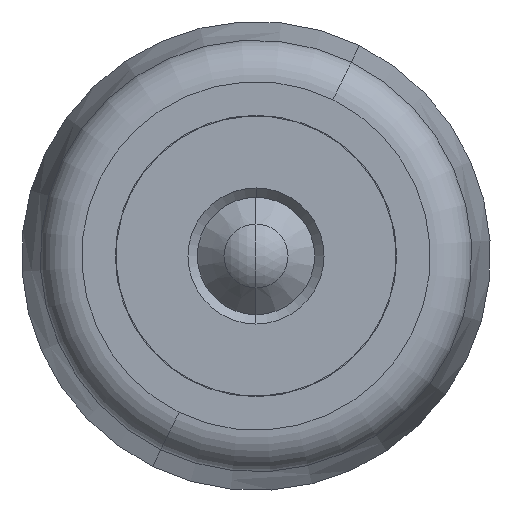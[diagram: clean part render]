
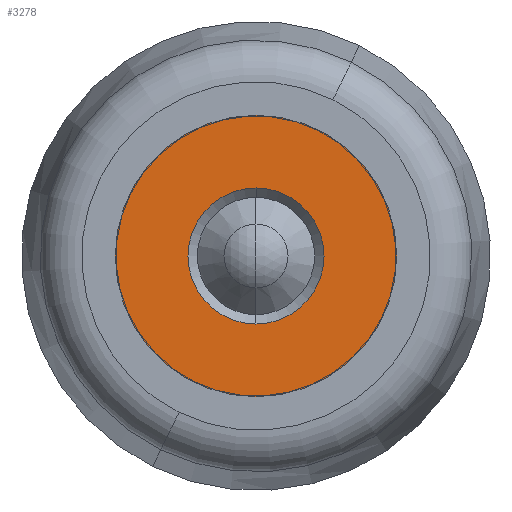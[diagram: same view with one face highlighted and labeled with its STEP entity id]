
A CAD part, front view. The second image highlights one B-rep face of the part: STEP entity #3278.
In plain terms, the highlighted planar face has unit normal (0, -1, 0).
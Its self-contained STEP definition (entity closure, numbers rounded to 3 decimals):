
#356 = AXIS2_PLACEMENT_3D ( 'NONE', #2574, #2552, #5004 ) ;
#490 = PLANE ( 'NONE',  #356 ) ;
#728 = DIRECTION ( 'NONE',  ( 0., 0., 1. ) ) ;
#793 = DIRECTION ( 'NONE',  ( 0., 1., 0. ) ) ;
#1011 = CIRCLE ( 'NONE', #4223, 1.45 ) ;
#1128 = EDGE_CURVE ( 'NONE', #2992, #1955, #1827, .T. ) ;
#1293 = CARTESIAN_POINT ( 'NONE',  ( 0., 0.2, 0. ) ) ;
#1549 = ORIENTED_EDGE ( 'NONE', *, *, #4705, .F. ) ;
#1566 = AXIS2_PLACEMENT_3D ( 'NONE', #2695, #1840, #2659 ) ;
#1802 = EDGE_CURVE ( 'NONE', #3438, #2405, #1011, .T. ) ;
#1807 = CARTESIAN_POINT ( 'NONE',  ( 0., 0.2, -3. ) ) ;
#1827 = CIRCLE ( 'NONE', #1566, 3. ) ;
#1840 = DIRECTION ( 'NONE',  ( 0., 1., 0. ) ) ;
#1872 = EDGE_LOOP ( 'NONE', ( #2112, #3257 ) ) ;
#1946 = CARTESIAN_POINT ( 'NONE',  ( 0., 0.2, -1.45 ) ) ;
#1955 = VERTEX_POINT ( 'NONE', #1807 ) ;
#2112 = ORIENTED_EDGE ( 'NONE', *, *, #4465, .T. ) ;
#2310 = AXIS2_PLACEMENT_3D ( 'NONE', #1293, #2514, #2926 ) ;
#2363 = FACE_BOUND ( 'NONE', #1872, .T. ) ;
#2405 = VERTEX_POINT ( 'NONE', #1946 ) ;
#2417 = ORIENTED_EDGE ( 'NONE', *, *, #1128, .F. ) ;
#2514 = DIRECTION ( 'NONE',  ( 0., 1., 0. ) ) ;
#2552 = DIRECTION ( 'NONE',  ( 0., 1., 0. ) ) ;
#2574 = CARTESIAN_POINT ( 'NONE',  ( -3.176, 0.2, -10. ) ) ;
#2659 = DIRECTION ( 'NONE',  ( 0., 0., 1. ) ) ;
#2695 = CARTESIAN_POINT ( 'NONE',  ( 0., 0.2, 0. ) ) ;
#2926 = DIRECTION ( 'NONE',  ( 0., 0., 1. ) ) ;
#2992 = VERTEX_POINT ( 'NONE', #4875 ) ;
#3080 = EDGE_LOOP ( 'NONE', ( #2417, #1549 ) ) ;
#3257 = ORIENTED_EDGE ( 'NONE', *, *, #1802, .T. ) ;
#3278 = ADVANCED_FACE ( 'NONE', ( #2363, #4945 ), #490, .F. ) ;
#3438 = VERTEX_POINT ( 'NONE', #4302 ) ;
#3659 = CARTESIAN_POINT ( 'NONE',  ( 0., 0.2, 0. ) ) ;
#4223 = AXIS2_PLACEMENT_3D ( 'NONE', #3659, #4889, #4543 ) ;
#4302 = CARTESIAN_POINT ( 'NONE',  ( 0., 0.2, 1.45 ) ) ;
#4409 = AXIS2_PLACEMENT_3D ( 'NONE', #4829, #793, #728 ) ;
#4465 = EDGE_CURVE ( 'NONE', #2405, #3438, #4511, .T. ) ;
#4511 = CIRCLE ( 'NONE', #2310, 1.45 ) ;
#4543 = DIRECTION ( 'NONE',  ( 0., 0., 1. ) ) ;
#4631 = CIRCLE ( 'NONE', #4409, 3. ) ;
#4705 = EDGE_CURVE ( 'NONE', #1955, #2992, #4631, .T. ) ;
#4829 = CARTESIAN_POINT ( 'NONE',  ( 0., 0.2, 0. ) ) ;
#4875 = CARTESIAN_POINT ( 'NONE',  ( 0., 0.2, 3. ) ) ;
#4889 = DIRECTION ( 'NONE',  ( 0., 1., 0. ) ) ;
#4945 = FACE_OUTER_BOUND ( 'NONE', #3080, .T. ) ;
#5004 = DIRECTION ( 'NONE',  ( 0., 0., 1. ) ) ;
